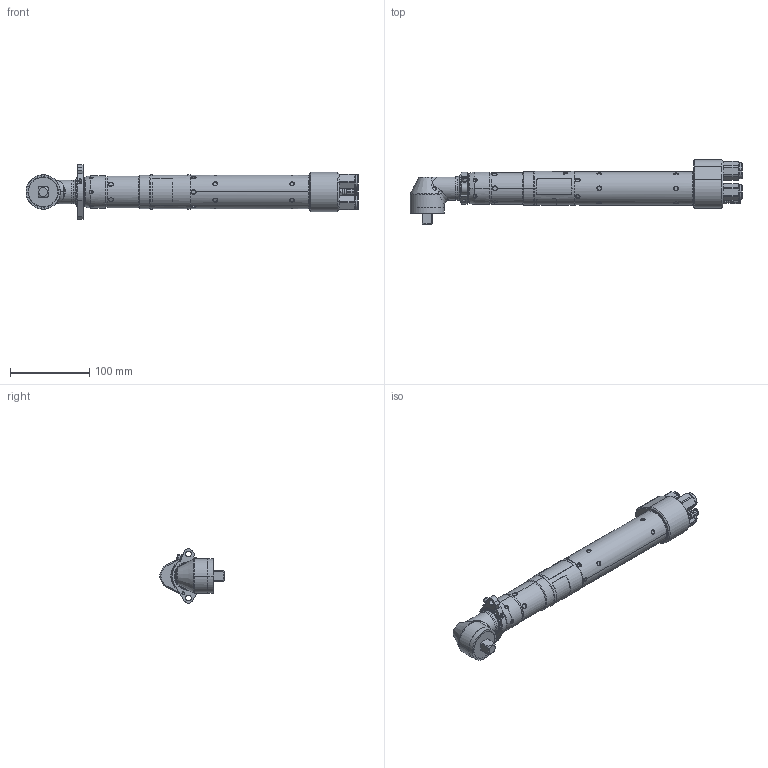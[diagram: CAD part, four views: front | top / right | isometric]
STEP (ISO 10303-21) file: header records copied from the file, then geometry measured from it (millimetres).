
FILE_DESCRIPTION((''),'2;1');
FILE_NAME('PRT0001','2019-04-11T19:22:57',('ccbyut'),(''),'CREO PARAMETRIC BY PTC INC, 2018420','CREO PARAMETRIC BY PTC INC, 2018420','');
FILE_SCHEMA(('CONFIG_CONTROL_DESIGN'));
Length unit declared in the file: metre
Products named in the file (1): PRT0001
Bounding box: 417.9 x 81.21 x 68.26 mm (x, y, z)
Volume: 580708.4 mm3; surface area: 72039.2 mm2
Topology: 1 solids, 7 shells, 1170 faces, 4283 edges, 2766 vertices
Faces by surface type: cylinder 502, extrusion 310, plane 141, cone 121, torus 83, bspline 13
Entity records: 77090 total; most frequent: CARTESIAN_POINT 42704, ORIENTED_EDGE 8550, DIRECTION 5655, EDGE_CURVE 4281, VERTEX_POINT 2766, B_SPLINE_CURVE_WITH_KNOTS 2064, AXIS2_PLACEMENT_3D 1970, VECTOR 1715
